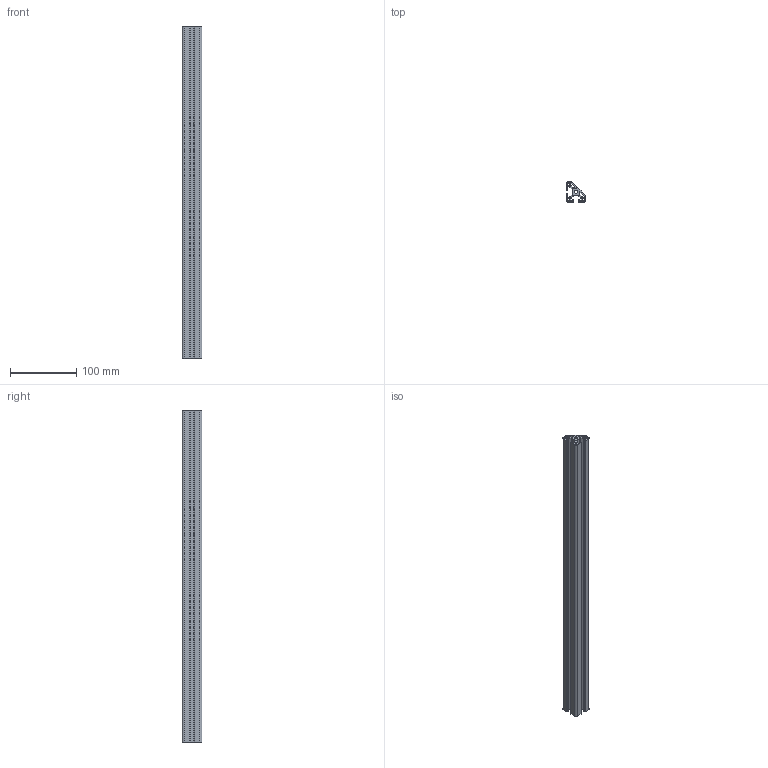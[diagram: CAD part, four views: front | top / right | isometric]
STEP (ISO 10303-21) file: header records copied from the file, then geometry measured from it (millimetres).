
FILE_DESCRIPTION (( 'STEP AP203' ), '1' );
FILE_NAME ('M ATP I6 30L45ｰ.STEP', '2012-06-04T09:29:01', ( 'alle' ), ( 'Hewlett-Packard Company' ), 'SwSTEP 2.0', 'SolidWorks 2011', '' );
FILE_SCHEMA (( 'CONFIG_CONTROL_DESIGN' ));
Length unit declared in the file: millimetre
Products named in the file (1): M ATP I6 30L45°
Bounding box: 30 x 30 x 500 mm (x, y, z)
Volume: 152998.1 mm3; surface area: 144192.1 mm2
Topology: 1 solids, 1 shells, 110 faces, 324 edges, 216 vertices
Faces by surface type: cylinder 55, plane 55
Entity records: 3799 total; most frequent: DIRECTION 656, CARTESIAN_POINT 651, ORIENTED_EDGE 648, EDGE_CURVE 324, AXIS2_PLACEMENT_3D 221, VERTEX_POINT 216, VECTOR 214, LINE 214
